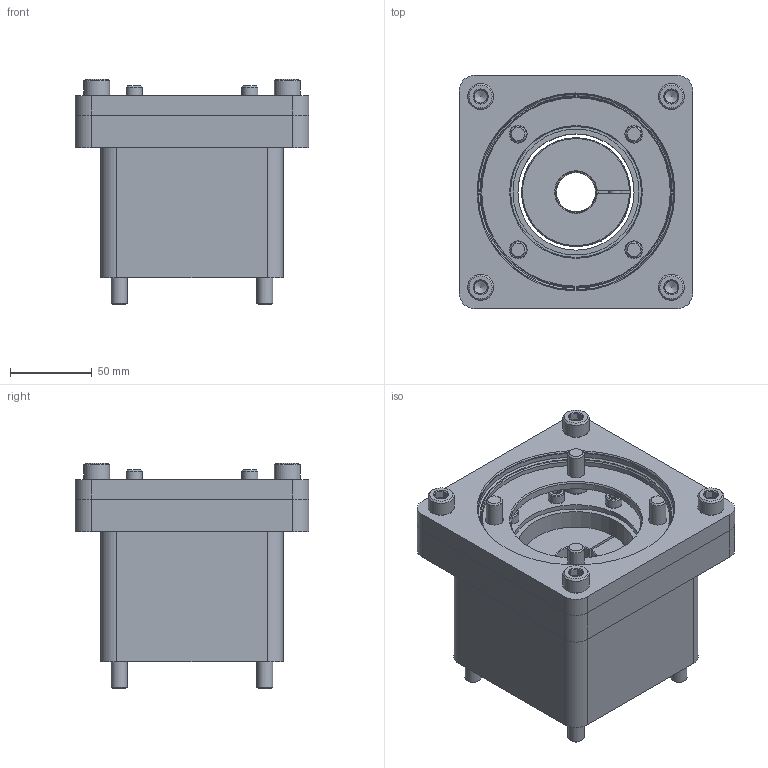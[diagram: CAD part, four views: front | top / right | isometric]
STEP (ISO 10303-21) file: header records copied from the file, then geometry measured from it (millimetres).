
FILE_DESCRIPTION(/* description */ ('EAMK-A O-Coupling housing'),/* implementation_level */ '2;1');
FILE_NAME(/* name */ 'C:\STORE\ホームページ用データ\\X2\30E230FC30BF53D64ED830AD30C330C8\X0\_2016_2016.10.06_\X2\30AB30BF30ED30B065398A025206\X0\\3D_STEP\2449341 EAMM-A-D100-120G.stp',/* time_stamp */ '2016-10-19T16:47:37+09:00',/* author */ ('jp0tot'),/* organization */ ('FESTO'),/* preprocessor_version */ 'ST-DEVELOPER v15.6',/* originating_system */ 'Autodesk Inventor 2015',/* authorisation */ '');
FILE_SCHEMA (('AUTOMOTIVE_DESIGN { 1 0 10303 214 3 1 1 }'));
Length unit declared in the file: millimetre
Products named in the file (9): 1593914 EAMK-A-D100-77A---(1O); DIN-912 - M10x80(F); 2449380 EAMF-A-77B-120G-S1(1A10); 2683767 EAMF-U-140A-120G-S1; DIN-912 - M10x30(F); DIN-7984 - M10x20(F); DIN-912 - M6x20(F); 3187895 EAMC-67-62-24-25; 2449341 EAMM-A-D100-120G
Bounding box: 143 x 143 x 138 mm (x, y, z)
Volume: 1188033.4 mm3; surface area: 243569.6 mm2
Topology: 24 solids, 24 shells, 689 faces, 1489 edges, 892 vertices
Faces by surface type: plane 350, cone 214, cylinder 119, torus 6
Full cylindrical faces by diameter (mm): 4.917 x8, 6 x8, 6.6 x8, 8 x2, 8.376 x4, 8.4 x4, 10 x20, 10.1 x4, 11 x8, 12.8 x2, 15 x2, 16 x12, 16.3 x4, 24 x1, 25 x1, 27 x1, 66.5 x1, 71 x1, 77 x2, 80 x1, 100 x1, 115.3 x1, 118 x1, 119.7 x1, 120 x1, 130 x2
Entity records: 7748 total; most frequent: CARTESIAN_POINT 1456, DIRECTION 1344, ORIENTED_EDGE 1012, AXIS2_PLACEMENT_3D 572, EDGE_CURVE 506, EDGE_LOOP 486, VERTEX_POINT 382, FACE_OUTER_BOUND 283
